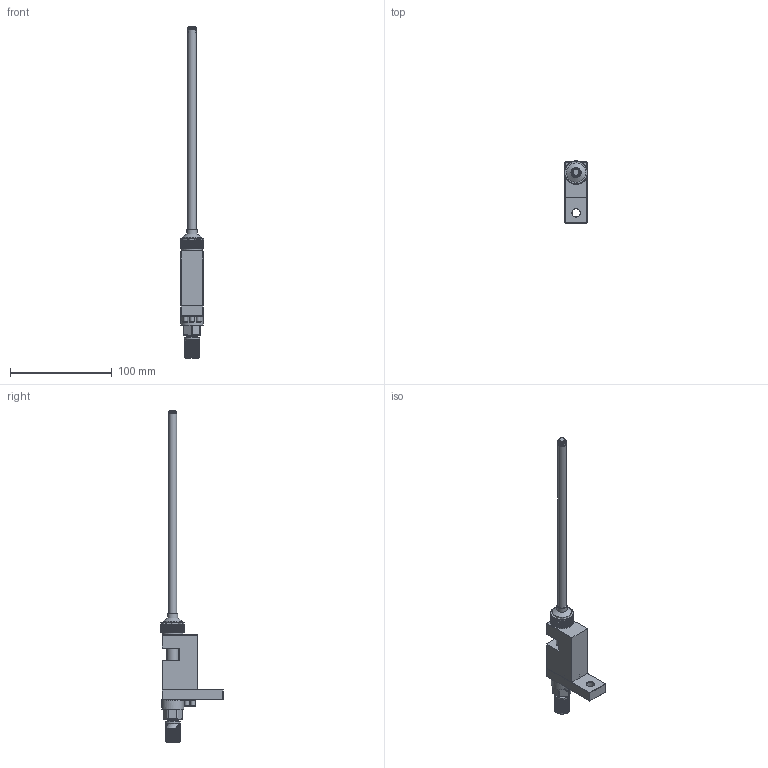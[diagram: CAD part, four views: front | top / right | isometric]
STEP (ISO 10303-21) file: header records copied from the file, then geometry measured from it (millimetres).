
FILE_DESCRIPTION (( 'STEP AP214' ), '1' );
FILE_NAME ('DAS-50N-200.STEP', '2024-10-11T10:07:41', ( '' ), ( '' ), 'SwSTEP 2.0', 'SolidWorks 2024', '' );
FILE_SCHEMA (( 'AUTOMOTIVE_DESIGN' ));
Length unit declared in the file: millimetre
Products named in the file (1): DAS-50N-200
Bounding box: 23 x 61.11 x 327.1 mm (x, y, z)
Volume: 86167.1 mm3; surface area: 29196.8 mm2
Topology: 13 solids, 13 shells, 689 faces, 1867 edges, 1229 vertices
Faces by surface type: cylinder 310, cone 164, plane 115, torus 63, bspline 37
Full cylindrical faces by diameter (mm): 3.3 x3, 4 x1, 4.2 x1, 4.3 x3, 4.8 x6, 5 x2, 5.8 x3, 7.85 x6, 8 x3, 8.8 x1, 10 x2, 10.5 x1, 11.1 x1, 11.2 x1, 13 x1, 15 x1, 18.9 x1, 19 x2, 19.8 x1, 20 x1, 20.8 x1, 21.8 x1
Entity records: 26389 total; most frequent: CARTESIAN_POINT 9964, ORIENTED_EDGE 3470, DIRECTION 3318, EDGE_CURVE 1735, AXIS2_PLACEMENT_3D 1427, VERTEX_POINT 1183, EDGE_LOOP 810, CIRCLE 774
